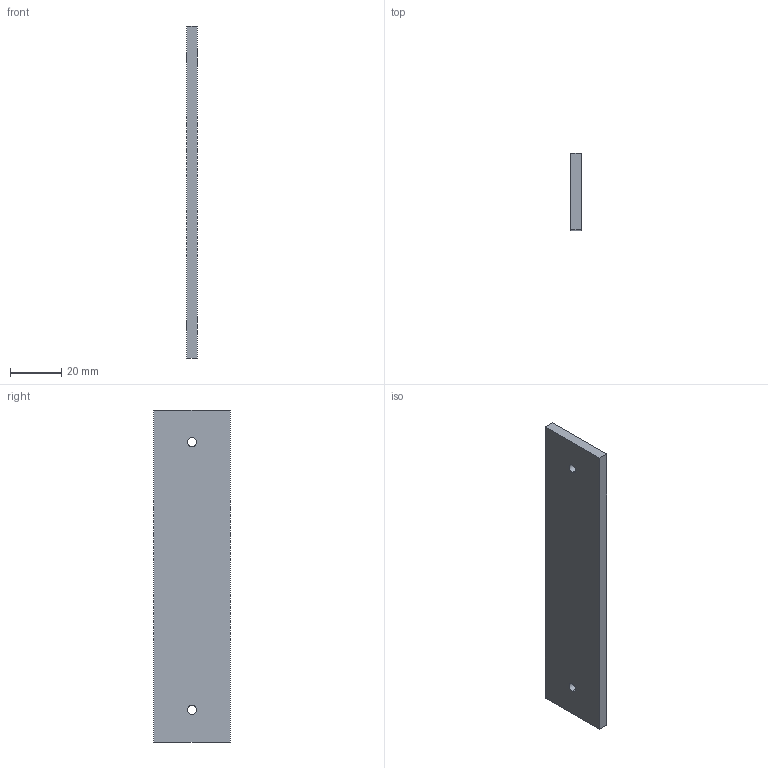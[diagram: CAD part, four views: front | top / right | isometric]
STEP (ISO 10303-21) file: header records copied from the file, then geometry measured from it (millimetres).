
FILE_DESCRIPTION (( 'STEP AP214' ), '1' );
FILE_NAME ('Jetson_node_zero_right.STEP', '2015-02-27T03:16:37', ( '' ), ( '' ), '', '', '' );
FILE_SCHEMA (( '' ));
Length unit declared in the file: millimetre
Products named in the file (1): Jetson_node_zero_right
Bounding box: 4 x 29.75 x 129 mm (x, y, z)
Volume: 15242.2 mm3; surface area: 8981.5 mm2
Topology: 1 solids, 1 shells, 14 faces, 32 edges, 20 vertices
Faces by surface type: plane 6, cone 4, cylinder 4
Entity records: 427 total; most frequent: DIRECTION 74, CARTESIAN_POINT 67, ORIENTED_EDGE 64, EDGE_CURVE 32, AXIS2_PLACEMENT_3D 27, VERTEX_POINT 20, VECTOR 20, LINE 20
